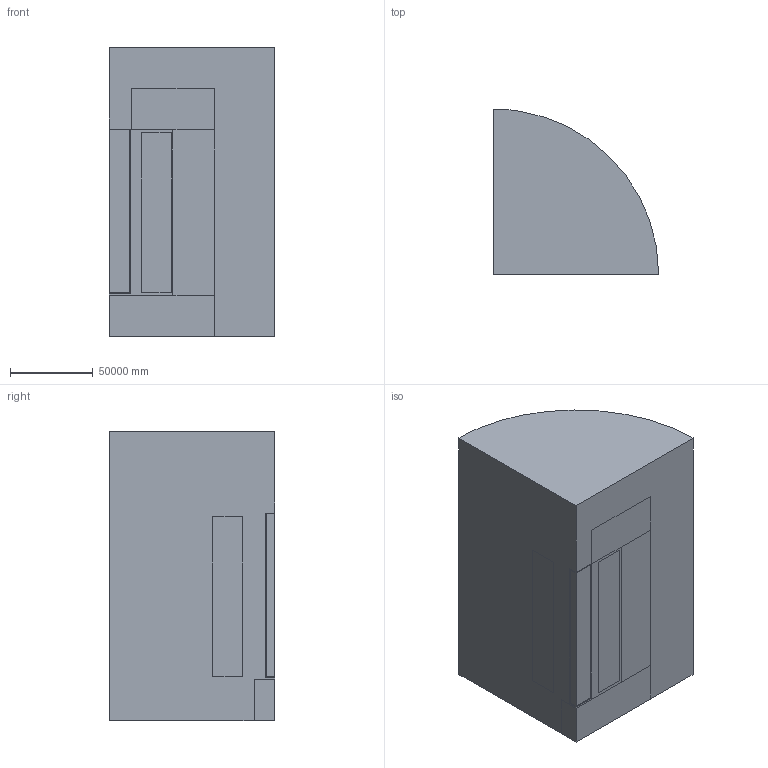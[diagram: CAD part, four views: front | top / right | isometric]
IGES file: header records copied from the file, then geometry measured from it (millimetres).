
Start section: VM233, STATIC FORCE COMPUTATION OF A 3D SOLENOID ACTUATOR /COM,ANSYS RELEASE                   BUILD  0.0      UP00000000       00 /NOPR /PREP7 /TITLE,VM233, STATIC FORCE COMPUTATION OF A 3D SOLENOID ACTUATOR DOF,MAG, *SET,TCUR,5000.000000000 *SET,XINF,100.0000000000 *SET,YINF,100.0000000000 *SET,ZINF,175.0000000000 *SET,_EXIT,1.000000000000 *SET,_GEOMGEN,1.000000000000 *SET,_RETURN,0.000000000000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
Global section: file name:           ; native system: ANSYS; preprocessor:             UP        ; date: 000000.000000; units: metre
Bounding box: 100000 x 100000 x 175000 mm (x, y, z)
Volume: 1374446807415995.2 mm3; surface area: 137828942302.6 mm2
Topology: 9 solids, 9 shells, 86 faces, 192 edges, 124 vertices
Faces by surface type: bspline 86
